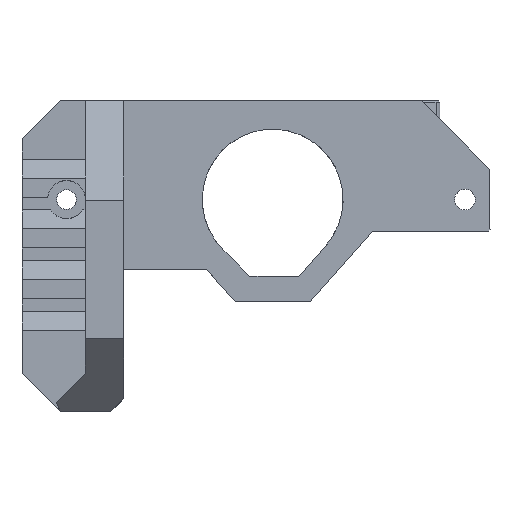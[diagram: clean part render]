
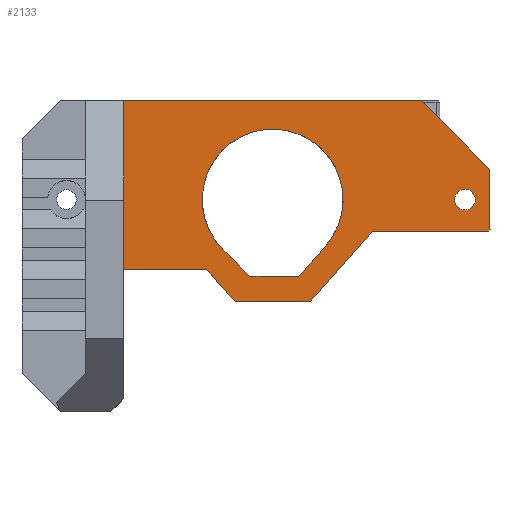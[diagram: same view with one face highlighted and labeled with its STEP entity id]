
A CAD part, top view. The second image highlights one B-rep face of the part: STEP entity #2133.
In plain terms, the highlighted planar face has unit normal (0, 0, 1).
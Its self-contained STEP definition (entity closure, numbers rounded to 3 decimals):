
#33=FACE_BOUND('',#806,.T.);
#34=FACE_BOUND('',#807,.T.);
#52=CIRCLE('',#2240,11.1);
#64=CIRCLE('',#2265,1.625);
#145=PLANE('',#2264);
#253=LINE('',#3520,#482);
#268=LINE('',#3560,#497);
#269=LINE('',#3562,#498);
#270=LINE('',#3564,#499);
#271=LINE('',#3567,#500);
#272=LINE('',#3569,#501);
#273=LINE('',#3571,#502);
#274=LINE('',#3573,#503);
#275=LINE('',#3575,#504);
#276=LINE('',#3577,#505);
#277=LINE('',#3579,#506);
#278=LINE('',#3581,#507);
#279=LINE('',#3582,#508);
#482=VECTOR('',#2505,10.);
#497=VECTOR('',#2534,10.);
#498=VECTOR('',#2537,10.);
#499=VECTOR('',#2540,10.);
#500=VECTOR('',#2543,10.);
#501=VECTOR('',#2544,10.);
#502=VECTOR('',#2545,10.);
#503=VECTOR('',#2546,10.);
#504=VECTOR('',#2547,10.);
#505=VECTOR('',#2548,10.);
#506=VECTOR('',#2549,10.);
#507=VECTOR('',#2550,10.);
#508=VECTOR('',#2551,10.);
#686=FACE_OUTER_BOUND('',#805,.T.);
#805=EDGE_LOOP('',(#1634,#1635,#1636,#1637,#1638,#1639,#1640,#1641,#1642,
#1643));
#806=EDGE_LOOP('',(#1644,#1645,#1646,#1647));
#807=EDGE_LOOP('',(#1648));
#969=VERTEX_POINT('',#3398);
#970=VERTEX_POINT('',#3400);
#1007=VERTEX_POINT('',#3518);
#1008=VERTEX_POINT('',#3519);
#1025=VERTEX_POINT('',#3556);
#1026=VERTEX_POINT('',#3558);
#1027=VERTEX_POINT('',#3566);
#1028=VERTEX_POINT('',#3568);
#1029=VERTEX_POINT('',#3570);
#1030=VERTEX_POINT('',#3572);
#1031=VERTEX_POINT('',#3574);
#1032=VERTEX_POINT('',#3576);
#1033=VERTEX_POINT('',#3578);
#1034=VERTEX_POINT('',#3580);
#1035=VERTEX_POINT('',#3583);
#1184=EDGE_CURVE('',#970,#969,#52,.T.);
#1232=EDGE_CURVE('',#1007,#1008,#253,.F.);
#1253=EDGE_CURVE('',#1025,#1026,#268,.T.);
#1254=EDGE_CURVE('',#1026,#970,#269,.T.);
#1255=EDGE_CURVE('',#969,#1025,#270,.T.);
#1256=EDGE_CURVE('',#1027,#1007,#271,.T.);
#1257=EDGE_CURVE('',#1027,#1028,#272,.T.);
#1258=EDGE_CURVE('',#1028,#1029,#273,.T.);
#1259=EDGE_CURVE('',#1029,#1030,#274,.T.);
#1260=EDGE_CURVE('',#1030,#1031,#275,.T.);
#1261=EDGE_CURVE('',#1032,#1031,#276,.F.);
#1262=EDGE_CURVE('',#1033,#1032,#277,.T.);
#1263=EDGE_CURVE('',#1034,#1033,#278,.F.);
#1264=EDGE_CURVE('',#1008,#1034,#279,.F.);
#1265=EDGE_CURVE('',#1035,#1035,#64,.T.);
#1634=ORIENTED_EDGE('',*,*,#1256,.F.);
#1635=ORIENTED_EDGE('',*,*,#1257,.T.);
#1636=ORIENTED_EDGE('',*,*,#1258,.T.);
#1637=ORIENTED_EDGE('',*,*,#1259,.T.);
#1638=ORIENTED_EDGE('',*,*,#1260,.T.);
#1639=ORIENTED_EDGE('',*,*,#1261,.F.);
#1640=ORIENTED_EDGE('',*,*,#1262,.F.);
#1641=ORIENTED_EDGE('',*,*,#1263,.F.);
#1642=ORIENTED_EDGE('',*,*,#1264,.F.);
#1643=ORIENTED_EDGE('',*,*,#1232,.F.);
#1644=ORIENTED_EDGE('',*,*,#1184,.T.);
#1645=ORIENTED_EDGE('',*,*,#1255,.T.);
#1646=ORIENTED_EDGE('',*,*,#1253,.T.);
#1647=ORIENTED_EDGE('',*,*,#1254,.T.);
#1648=ORIENTED_EDGE('',*,*,#1265,.T.);
#2133=ADVANCED_FACE('',(#686,#33,#34),#145,.F.);
#2240=AXIS2_PLACEMENT_3D('',#3401,#2434,#2435);
#2264=AXIS2_PLACEMENT_3D('',#3565,#2541,#2542);
#2265=AXIS2_PLACEMENT_3D('',#3584,#2552,#2553);
#2434=DIRECTION('center_axis',(0.,0.,
-1.));
#2435=DIRECTION('ref_axis',(0.,1.,0.));
#2505=DIRECTION('',(-1.,0.,0.));
#2534=DIRECTION('',(-1.,0.,0.));
#2537=DIRECTION('',(-0.707,0.707,0.));
#2540=DIRECTION('',(-0.663,-0.749,0.));
#2541=DIRECTION('center_axis',(0.,0.,
-1.));
#2542=DIRECTION('ref_axis',(1.,0.,0.));
#2543=DIRECTION('',(0.,1.,0.));
#2544=DIRECTION('',(1.,0.,0.));
#2545=DIRECTION('',(0.663,-0.749,0.));
#2546=DIRECTION('',(1.,0.,0.));
#2547=DIRECTION('',(0.663,0.749,0.));
#2548=DIRECTION('',(1.,0.,0.));
#2549=DIRECTION('',(-0.707,-0.707,0.));
#2550=DIRECTION('',(0.,1.,0.));
#2551=DIRECTION('',(-0.707,0.707,0.));
#2552=DIRECTION('center_axis',(0.,0.,
-1.));
#2553=DIRECTION('ref_axis',(-1.,0.,0.));
#3398=CARTESIAN_POINT('',(40.669,229.265,29.168));
#3400=CARTESIAN_POINT('',(24.507,228.771,29.168));
#3401=CARTESIAN_POINT('Origin',(32.356,236.62,29.168));
#3518=CARTESIAN_POINT('',(8.84,252.208,29.168));
#3519=CARTESIAN_POINT('',(55.825,252.208,29.167));
#3520=CARTESIAN_POINT('',(31.037,252.208,29.168));
#3556=CARTESIAN_POINT('',(36.471,224.52,29.168));
#3558=CARTESIAN_POINT('',(28.758,224.52,29.168));
#3560=CARTESIAN_POINT('',(34.052,224.52,29.168));
#3562=CARTESIAN_POINT('',(24.76,228.518,29.168));
#3564=CARTESIAN_POINT('',(41.23,229.899,29.168));
#3565=CARTESIAN_POINT('Origin',(30.748,240.304,29.168));
#3566=CARTESIAN_POINT('',(8.84,225.55,29.168));
#3567=CARTESIAN_POINT('',(8.84,241.914,29.168));
#3568=CARTESIAN_POINT('',(21.988,225.55,29.168));
#3569=CARTESIAN_POINT('',(8.84,225.55,29.168));
#3570=CARTESIAN_POINT('',(26.439,220.52,29.168));
#3571=CARTESIAN_POINT('',(21.047,226.614,29.168));
#3572=CARTESIAN_POINT('',(38.273,220.52,29.168));
#3573=CARTESIAN_POINT('',(28.151,220.52,29.168));
#3574=CARTESIAN_POINT('',(48.094,231.62,29.168));
#3575=CARTESIAN_POINT('',(39.158,221.52,29.168));
#3576=CARTESIAN_POINT('',(66.365,231.62,29.167));
#3577=CARTESIAN_POINT('',(37.19,231.62,29.168));
#3578=CARTESIAN_POINT('',(66.613,231.868,29.167));
#3579=CARTESIAN_POINT('',(59.606,224.861,29.167));
#3580=CARTESIAN_POINT('',(66.613,241.42,29.167));
#3581=CARTESIAN_POINT('',(66.613,246.252,29.167));
#3582=CARTESIAN_POINT('',(55.229,252.804,29.168));
#3583=CARTESIAN_POINT('',(64.281,236.62,29.167));
#3584=CARTESIAN_POINT('Origin',(62.656,236.62,29.167));
